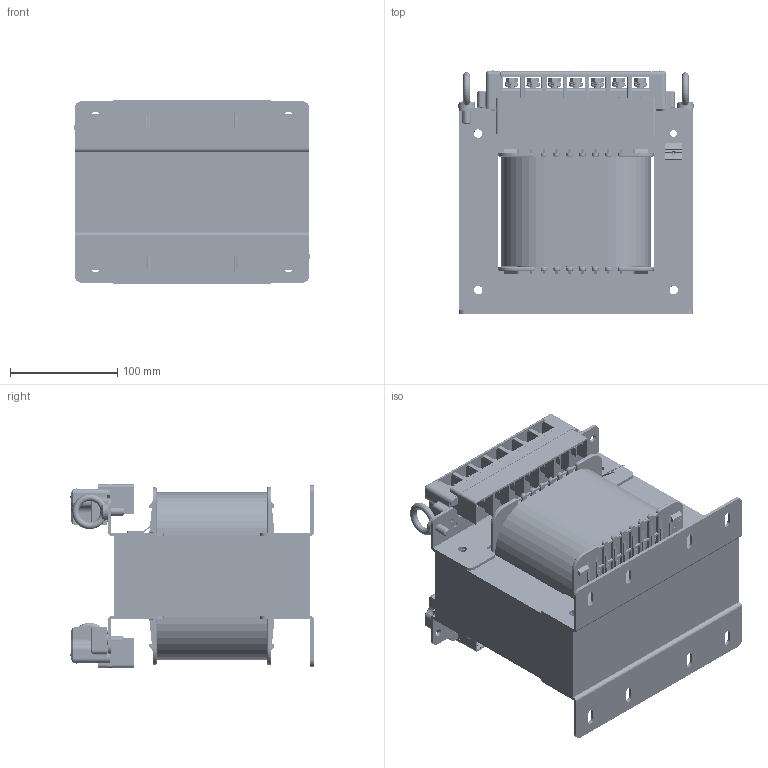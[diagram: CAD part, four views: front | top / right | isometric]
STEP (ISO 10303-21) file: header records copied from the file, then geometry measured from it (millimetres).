
FILE_DESCRIPTION (( 'STEP AP214' ), '1' );
FILE_NAME ('UL TRANS Ass''Y_1P-2kVA_Type A_rev.0.STEP', '2018-10-16T08:02:48', ( 'Registered User' ), ( 'Microsoft Corporation' ), 'SwSTEP 2.0', 'SolidWorks 2018', '' );
FILE_SCHEMA (( 'AUTOMOTIVE_DESIGN' ));
Length unit declared in the file: millimetre
Products named in the file (23): LED(赤5); 152 欽濠渠_LED PCB; spring lock washer_ks_KS 1324 - M5; conical spring washer (class 1)_ks_KS 1329 C1 - M5 x 1L; M6x12(HEX); M6(ゎ諦凜); M6(蝶Щ葭諦凜); 180 TERMINAL COVER; 180 欽濠渠 寰瞪 COVER; TRANS 180 欽濠渠_TERMINAL; 180欽濠渠-BODY_REV1; TRANS 219A ANGLE - DN (14.06.16); TRANS 219A ANGLE - UP (14.06.16); UL TRANS 1P 2KVA BARRIER_P00; 1p 3kva coil; TRANS 3KVA EI CORE(219x75)_P00; 16-Bmm蕾雖欽濠; TRANS BOBBIN(219-75)_P00; eye bolt_ks_KS B 1033 - M8-N-F; 180 欽濠渠 ASS''Y_REV1; UL TRANS Ass''Y_1P-2kVA_Type A_rev.0; 152 欽濠渠_PCB ASS''Y
Assembly tree (53 placements, depth 4):
  UL TRANS Ass''Y_1P-2kVA_Type A_rev.0
    TRANS BOBBIN(219-75)_P00
    TRANS 3KVA EI CORE(219x75)_P00
    UL TRANS 1P 2KVA BARRIER_P00  x4
    TRANS 219A ANGLE - UP (14.06.16)  x2
    TRANS 219A ANGLE - DN (14.06.16)  x2
    180 欽濠渠 ASS''Y_REV1  x2
      180欽濠渠-BODY_REV1
      TRANS 180 欽濠渠_TERMINAL
      180 欽濠渠 寰瞪 COVER
      180 TERMINAL COVER
      M6x12(HEX)
        M6(蝶Щ葭諦凜)
        M6(ゎ諦凜)
        M6x12(HEX)
      conical spring washer (class 1)_ks_KS 1329 C1 - M5 x 1L
      spring lock washer_ks_KS 1324 - M5
      152 欽濠渠_PCB ASS''Y
        152 欽濠渠_LED PCB
        LED(赤5)
    eye bolt_ks_KS B 1033 - M8-N-F  x2
    16-Bmm蕾雖欽濠
    1p 3kva coil
Bounding box: 220 x 227.1 x 172 mm (x, y, z)
Volume: 5009775.4 mm3; surface area: 800085.4 mm2
Topology: 104 solids, 108 shells, 11683 faces, 31946 edges, 20486 vertices
Faces by surface type: plane 7213, cylinder 2488, bspline 1212, torus 326, sphere 226, cone 218
Entity records: 190378 total; most frequent: CARTESIAN_POINT 58201, ORIENTED_EDGE 28916, DIRECTION 24692, EDGE_CURVE 14458, LINE 10412, VECTOR 10412, VERTEX_POINT 9294, AXIS2_PLACEMENT_3D 7140
